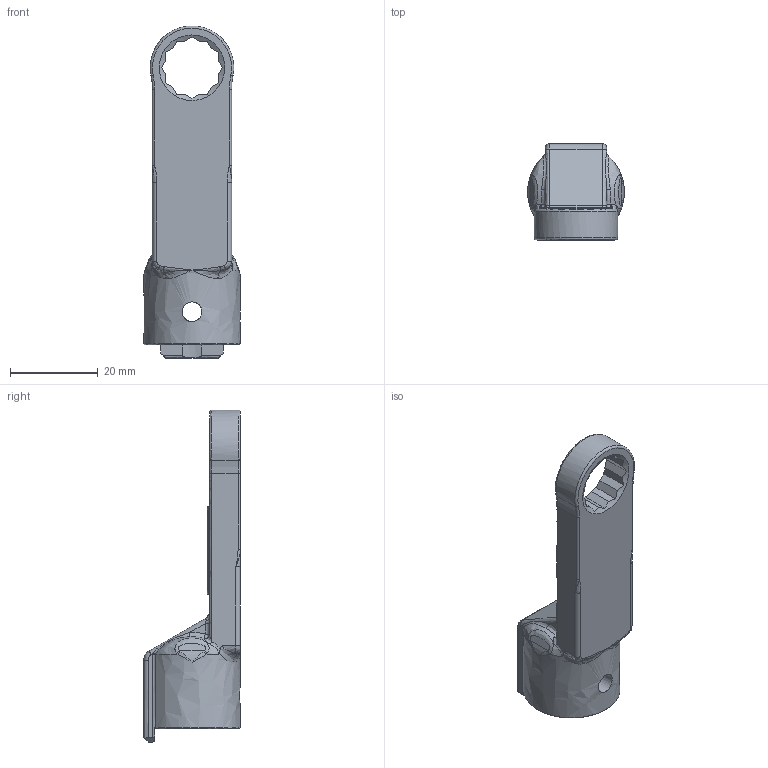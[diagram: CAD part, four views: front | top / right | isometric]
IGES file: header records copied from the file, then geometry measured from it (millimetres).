
Global section: file name: RH15DX12; native system: Autodesk Inventor 2016; preprocessor: unknown; author: Q600; date: 20151110.162226; units: millimetre
Bounding box: 22 x 22 x 75.48 mm (x, y, z)
Volume: 10409 mm3; surface area: 5560.6 mm2
Topology: 1 solids, 1 shells, 161 faces, 419 edges, 247 vertices
Faces by surface type: bspline 161
